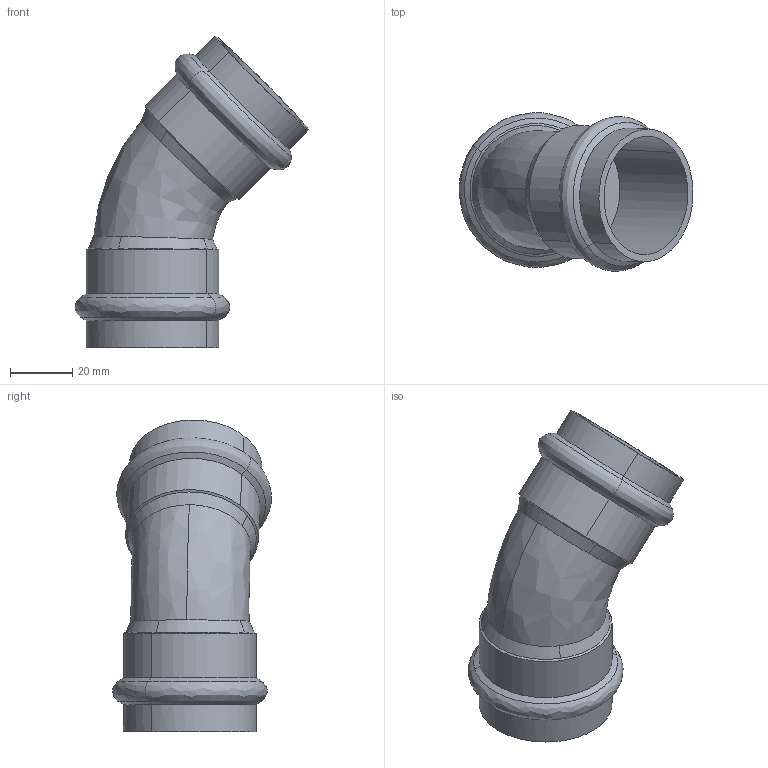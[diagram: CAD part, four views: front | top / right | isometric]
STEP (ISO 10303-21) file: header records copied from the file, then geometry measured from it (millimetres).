
FILE_DESCRIPTION(('STEP AP214'),'1');
FILE_NAME('pim0004548.stp','2015-04-30T15:18:05',('Cad-Pim'),('TransMagic, Inc.'),'TMR11sp0','TransMagic R11',' ');
FILE_SCHEMA(('AUTOMOTIVE_DESIGN'));
Length unit declared in the file: millimetre
Products named in the file (1): pim0004548
Bounding box: 75.16 x 51.08 x 100.16 mm (x, y, z)
Volume: 66289.1 mm3; surface area: 24289.4 mm2
Topology: 1 solids, 1 shells, 39 faces, 107 edges, 72 vertices
Faces by surface type: cone 16, cylinder 12, bspline 11
Entity records: 2216 total; most frequent: CARTESIAN_POINT 1033, ORIENTED_EDGE 214, DIRECTION 143, EDGE_CURVE 107, VERTEX_POINT 72, AXIS2_PLACEMENT_3D 57, EDGE_LOOP 41, STYLED_ITEM 40
